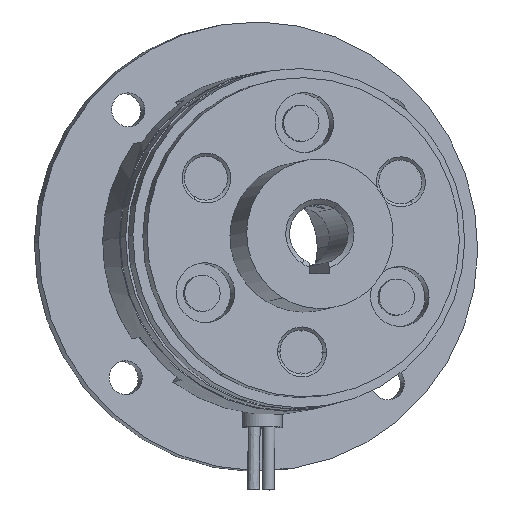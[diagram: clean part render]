
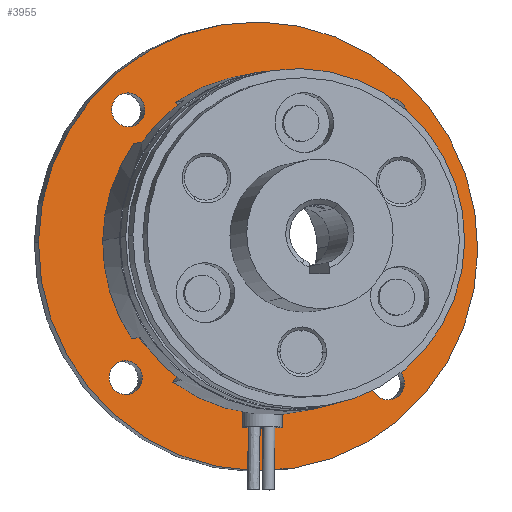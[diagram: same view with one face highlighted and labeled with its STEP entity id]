
A CAD part, left-side view. The second image highlights one B-rep face of the part: STEP entity #3955.
In plain terms, the highlighted planar face has unit normal (-0.977, -0.209, 0.042) as drawn and (0, 0, 1) by its records, which use the part's own axes.
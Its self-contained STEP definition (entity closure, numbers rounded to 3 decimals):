
#2938=CARTESIAN_POINT('',(-22.5,0.,2.0));
#2939=VERTEX_POINT('',#2938);
#2955=CARTESIAN_POINT('',(22.5,0.,2.0));
#2956=VERTEX_POINT('',#2955);
#2963=CARTESIAN_POINT('',(0.0,0.0,2.0));
#2964=DIRECTION('',(0.0,0.0,-1.0));
#2965=DIRECTION('',(-1.0,0.0,0.0));
#2966=AXIS2_PLACEMENT_3D('',#2963,#2964,#2965);
#2967=CIRCLE('',#2966,22.5);
#2968=EDGE_CURVE('',#2956,#2939,#2967,.T.);
#3022=CARTESIAN_POINT('',(-15.135,13.435,2.0));
#3023=VERTEX_POINT('',#3022);
#3039=CARTESIAN_POINT('',(-11.735,13.435,2.0));
#3040=VERTEX_POINT('',#3039);
#3047=CARTESIAN_POINT('',(-13.435,13.435,2.0));
#3048=DIRECTION('',(0.0,0.0,-1.0));
#3049=DIRECTION('',(-1.0,0.0,0.0));
#3050=AXIS2_PLACEMENT_3D('',#3047,#3048,#3049);
#3051=CIRCLE('',#3050,1.7);
#3052=EDGE_CURVE('',#3023,#3040,#3051,.T.);
#3064=CARTESIAN_POINT('',(13.435,15.135,2.0));
#3065=VERTEX_POINT('',#3064);
#3081=CARTESIAN_POINT('',(13.435,11.735,2.0));
#3082=VERTEX_POINT('',#3081);
#3089=CARTESIAN_POINT('',(13.435,13.435,2.0));
#3090=DIRECTION('',(0.0,0.0,-1.0));
#3091=DIRECTION('',(0.0,1.0,0.0));
#3092=AXIS2_PLACEMENT_3D('',#3089,#3090,#3091);
#3093=CIRCLE('',#3092,1.7);
#3094=EDGE_CURVE('',#3065,#3082,#3093,.T.);
#3106=CARTESIAN_POINT('',(-13.435,-15.135,2.0));
#3107=VERTEX_POINT('',#3106);
#3123=CARTESIAN_POINT('',(-13.435,-11.735,2.0));
#3124=VERTEX_POINT('',#3123);
#3131=CARTESIAN_POINT('',(-13.435,-13.435,2.0));
#3132=DIRECTION('',(0.0,0.0,-1.0));
#3133=DIRECTION('',(0.0,-1.0,0.0));
#3134=AXIS2_PLACEMENT_3D('',#3131,#3132,#3133);
#3135=CIRCLE('',#3134,1.7);
#3136=EDGE_CURVE('',#3107,#3124,#3135,.T.);
#3148=CARTESIAN_POINT('',(15.135,-13.435,2.0));
#3149=VERTEX_POINT('',#3148);
#3165=CARTESIAN_POINT('',(11.735,-13.435,2.0));
#3166=VERTEX_POINT('',#3165);
#3173=CARTESIAN_POINT('',(13.435,-13.435,2.0));
#3174=DIRECTION('',(0.0,0.0,-1.0));
#3175=DIRECTION('',(1.0,0.0,0.0));
#3176=AXIS2_PLACEMENT_3D('',#3173,#3174,#3175);
#3177=CIRCLE('',#3176,1.7);
#3178=EDGE_CURVE('',#3149,#3166,#3177,.T.);
#3496=CARTESIAN_POINT('',(-15.35,0.,2.0));
#3497=VERTEX_POINT('',#3496);
#3506=CARTESIAN_POINT('',(15.35,0.,2.0));
#3507=VERTEX_POINT('',#3506);
#3508=CARTESIAN_POINT('',(0.0,0.0,2.0));
#3509=DIRECTION('',(0.0,0.0,1.0));
#3510=DIRECTION('',(-1.0,0.0,0.0));
#3511=AXIS2_PLACEMENT_3D('',#3508,#3509,#3510);
#3512=CIRCLE('',#3511,15.35);
#3513=EDGE_CURVE('',#3497,#3507,#3512,.T.);
#3590=CARTESIAN_POINT('',(0.0,0.0,2.0));
#3591=DIRECTION('',(0.0,0.0,1.0));
#3592=DIRECTION('',(-1.0,0.0,0.0));
#3593=AXIS2_PLACEMENT_3D('',#3590,#3591,#3592);
#3594=CIRCLE('',#3593,15.35);
#3595=EDGE_CURVE('',#3507,#3497,#3594,.T.);
#3764=CARTESIAN_POINT('',(13.435,-13.435,2.0));
#3765=DIRECTION('',(0.0,0.0,-1.0));
#3766=DIRECTION('',(1.0,0.0,0.0));
#3767=AXIS2_PLACEMENT_3D('',#3764,#3765,#3766);
#3768=CIRCLE('',#3767,1.7);
#3769=EDGE_CURVE('',#3166,#3149,#3768,.T.);
#3788=CARTESIAN_POINT('',(-13.435,-13.435,2.0));
#3789=DIRECTION('',(0.0,0.0,-1.0));
#3790=DIRECTION('',(0.0,-1.0,0.0));
#3791=AXIS2_PLACEMENT_3D('',#3788,#3789,#3790);
#3792=CIRCLE('',#3791,1.7);
#3793=EDGE_CURVE('',#3124,#3107,#3792,.T.);
#3812=CARTESIAN_POINT('',(13.435,13.435,2.0));
#3813=DIRECTION('',(0.0,0.0,-1.0));
#3814=DIRECTION('',(0.0,1.0,0.0));
#3815=AXIS2_PLACEMENT_3D('',#3812,#3813,#3814);
#3816=CIRCLE('',#3815,1.7);
#3817=EDGE_CURVE('',#3082,#3065,#3816,.T.);
#3836=CARTESIAN_POINT('',(-13.435,13.435,2.0));
#3837=DIRECTION('',(0.0,0.0,-1.0));
#3838=DIRECTION('',(-1.0,0.0,0.0));
#3839=AXIS2_PLACEMENT_3D('',#3836,#3837,#3838);
#3840=CIRCLE('',#3839,1.7);
#3841=EDGE_CURVE('',#3040,#3023,#3840,.T.);
#3908=CARTESIAN_POINT('',(0.0,0.0,2.0));
#3909=DIRECTION('',(0.0,0.0,-1.0));
#3910=DIRECTION('',(-1.0,0.0,0.0));
#3911=AXIS2_PLACEMENT_3D('',#3908,#3909,#3910);
#3912=CIRCLE('',#3911,22.5);
#3913=EDGE_CURVE('',#2939,#2956,#3912,.T.);
#3926=CARTESIAN_POINT('',(0.0,0.0,2.0));
#3927=DIRECTION('',(0.0,0.0,-1.0));
#3928=DIRECTION('',(-1.0,0.0,0.0));
#3929=AXIS2_PLACEMENT_3D('',#3926,#3927,#3928);
#3930=PLANE('',#3929);
#3931=ORIENTED_EDGE('',*,*,#2968,.F.);
#3932=ORIENTED_EDGE('',*,*,#3913,.F.);
#3933=EDGE_LOOP('',(#3931,#3932));
#3934=FACE_OUTER_BOUND('',#3933,.T.);
#3935=ORIENTED_EDGE('',*,*,#3595,.F.);
#3936=ORIENTED_EDGE('',*,*,#3513,.F.);
#3937=EDGE_LOOP('',(#3935,#3936));
#3938=FACE_BOUND('',#3937,.T.);
#3939=ORIENTED_EDGE('',*,*,#3769,.T.);
#3940=ORIENTED_EDGE('',*,*,#3178,.T.);
#3941=EDGE_LOOP('',(#3939,#3940));
#3942=FACE_BOUND('',#3941,.T.);
#3943=ORIENTED_EDGE('',*,*,#3793,.T.);
#3944=ORIENTED_EDGE('',*,*,#3136,.T.);
#3945=EDGE_LOOP('',(#3943,#3944));
#3946=FACE_BOUND('',#3945,.T.);
#3947=ORIENTED_EDGE('',*,*,#3817,.T.);
#3948=ORIENTED_EDGE('',*,*,#3094,.T.);
#3949=EDGE_LOOP('',(#3947,#3948));
#3950=FACE_BOUND('',#3949,.T.);
#3951=ORIENTED_EDGE('',*,*,#3841,.T.);
#3952=ORIENTED_EDGE('',*,*,#3052,.T.);
#3953=EDGE_LOOP('',(#3951,#3952));
#3954=FACE_BOUND('',#3953,.T.);
#3955=ADVANCED_FACE('',(#3934,#3938,#3942,#3946,#3950,#3954),#3930,.F.);
